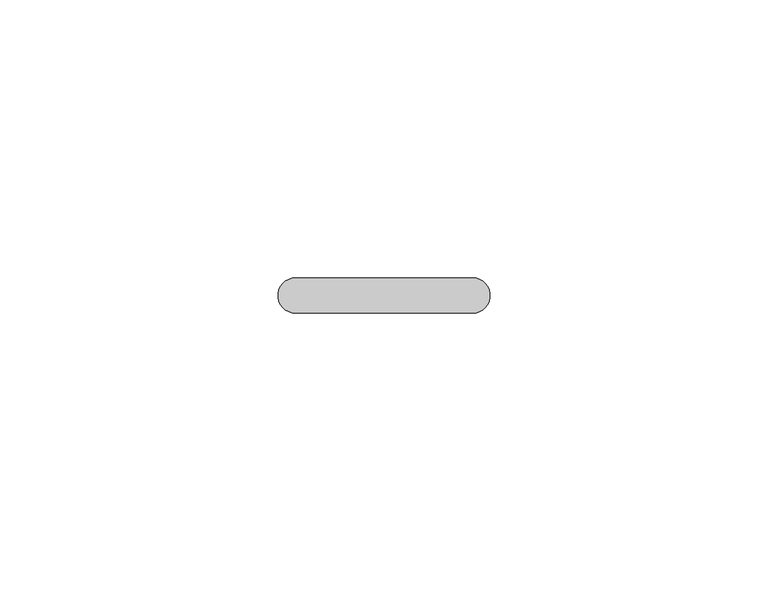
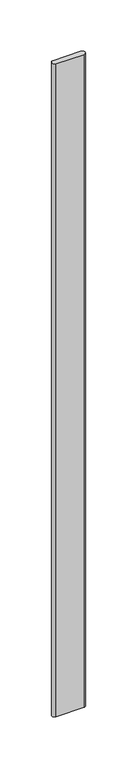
"""IFC4 building model written with IfcOpenShell, lengths in millimetres: proxy geometry, Durabond Generic Model Insulation Adhesive Flat : Durabond Generic Model Insulation Adhesive Flat."""

from ifc_helpers import new_model, si_unit, point, frame_2d, origin, origin_with_axes, place, context, project, spatial, polyline, circle_curve, trimmed, segment, composite_curve, outline, extrude, source, transform, mapped, element, save


def generic_models_65503a8f(model_context):
    return source(origin(), model_context, "Body", "SweptSolid", [
        extrude(outline(composite_curve([segment(polyline([(15.875, -3.175), (-15.875, -3.175)]), True, "CONTINUOUS"), segment(trimmed(circle_curve(frame_2d((-15.875, 0.0)), 3.175), [point((-15.875, -3.175))], [point((-15.875, 3.175))], False, "CARTESIAN"), True, "CONTINUOUS"), segment(polyline([(-15.875, 3.175), (15.875, 3.175)]), True, "CONTINUOUS"), segment(trimmed(circle_curve(frame_2d((15.875, 0.0)), 3.175), [point((15.875, 3.175))], [point((15.875, -3.175))], False, "CARTESIAN"), True, "CONTINUOUS")], self_intersect=False)), origin_with_axes(), (0.0, 0.0, 1.0), 790.575),
    ])


if __name__ == "__main__":
    model = new_model("IFC4")
    model_context = context("Model", 3, world=origin())
    ifc_project = project(units=[si_unit("LENGTHUNIT", "METRE", prefix="MILLI")], contexts=[model_context])
    site = spatial("IfcSite", under=ifc_project)
    building = spatial("IfcBuilding", under=site)
    placement = place(None, origin())
    generic_models_shape = generic_models_65503a8f(model_context)
    element("IfcBuildingElementProxy", 1, Name="Durabond Generic Model Insulation Adhesive Flat : Durabond Generic Model Insulation Adhesive Flat", ObjectType="Durabond Generic Model Insulation Adhesive Flat : Durabond Generic Model Insulation Adhesive Flat", at=placement, inside=building, context=model_context, shape_type="MappedRepresentation", body=[
        mapped(generic_models_shape, transform((0.0, 0.0, 0.0), x_axis=(1.0, 0.0, 0.0), y_axis=(0.0, 1.0, 0.0), z_axis=(0.0, 0.0, 1.0))),
    ])
    save(model, "model.ifc")
